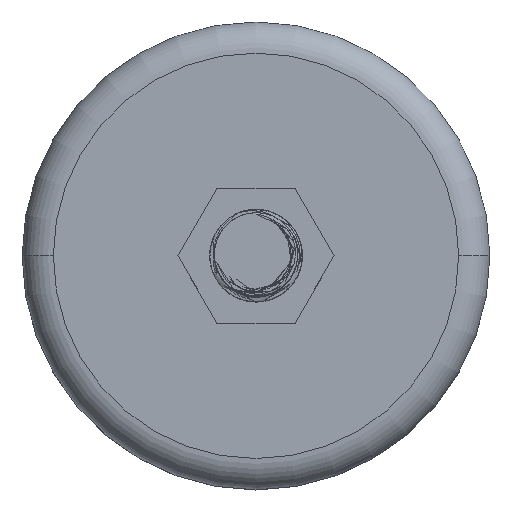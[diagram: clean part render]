
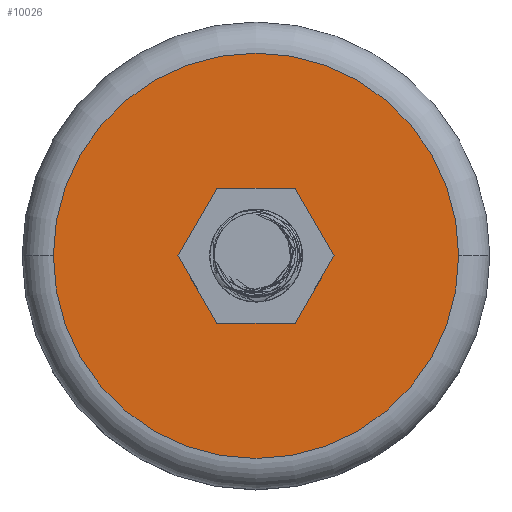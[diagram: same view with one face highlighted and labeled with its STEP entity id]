
A CAD part, top view. The second image highlights one B-rep face of the part: STEP entity #10026.
In plain terms, the highlighted planar face has unit normal (0, 0, 1).
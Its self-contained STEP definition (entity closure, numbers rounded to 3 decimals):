
#137 = VERTEX_POINT ( 'NONE', #2942 ) ;
#291 = ORIENTED_EDGE ( 'NONE', *, *, #7947, .F. ) ;
#548 = LINE ( 'NONE', #12035, #7671 ) ;
#697 = DIRECTION ( 'NONE',  ( -0.5, 0.866, 0. ) ) ;
#761 = VERTEX_POINT ( 'NONE', #1630 ) ;
#1560 = DIRECTION ( 'NONE',  ( 1., 0., 0. ) ) ;
#1630 = CARTESIAN_POINT ( 'NONE',  ( -7.506, 0., 17. ) ) ;
#2006 = CARTESIAN_POINT ( 'NONE',  ( 7.506, 0., 17. ) ) ;
#2283 = VERTEX_POINT ( 'NONE', #6211 ) ;
#2542 = ORIENTED_EDGE ( 'NONE', *, *, #7326, .T. ) ;
#2573 = DIRECTION ( 'NONE',  ( 1., 0., 0. ) ) ;
#2601 = VECTOR ( 'NONE', #8489, 1000. ) ;
#2711 = EDGE_CURVE ( 'NONE', #6851, #137, #12301, .T. ) ;
#2809 = ORIENTED_EDGE ( 'NONE', *, *, #4797, .F. ) ;
#2863 = DIRECTION ( 'NONE',  ( 0., 0., 1. ) ) ;
#2942 = CARTESIAN_POINT ( 'NONE',  ( 3.753, -6.5, 17. ) ) ;
#2945 = CARTESIAN_POINT ( 'NONE',  ( -19.5, 0., 17. ) ) ;
#3129 = VECTOR ( 'NONE', #8316, 1000. ) ;
#3314 = LINE ( 'NONE', #2006, #11793 ) ;
#3545 = EDGE_CURVE ( 'NONE', #9160, #10623, #10645, .T. ) ;
#3712 = VERTEX_POINT ( 'NONE', #8887 ) ;
#3868 = DIRECTION ( 'NONE',  ( 0., 0., 1. ) ) ;
#4170 = CARTESIAN_POINT ( 'NONE',  ( 0., 0., 17. ) ) ;
#4417 = AXIS2_PLACEMENT_3D ( 'NONE', #4170, #2863, #1560 ) ;
#4751 = AXIS2_PLACEMENT_3D ( 'NONE', #10444, #3868, #2573 ) ;
#4797 = EDGE_CURVE ( 'NONE', #9161, #2283, #3314, .T. ) ;
#5295 = ORIENTED_EDGE ( 'NONE', *, *, #3545, .T. ) ;
#5670 = VECTOR ( 'NONE', #7331, 1000. ) ;
#6094 = ORIENTED_EDGE ( 'NONE', *, *, #2711, .F. ) ;
#6211 = CARTESIAN_POINT ( 'NONE',  ( 3.753, 6.5, 17. ) ) ;
#6332 = FACE_BOUND ( 'NONE', #9631, .T. ) ;
#6851 = VERTEX_POINT ( 'NONE', #10747 ) ;
#7269 = CARTESIAN_POINT ( 'NONE',  ( 7.506, 0., 17. ) ) ;
#7326 = EDGE_CURVE ( 'NONE', #10623, #9160, #10989, .T. ) ;
#7331 = DIRECTION ( 'NONE',  ( 0.5, -0.866, 0. ) ) ;
#7671 = VECTOR ( 'NONE', #10727, 1000. ) ;
#7713 = DIRECTION ( 'NONE',  ( 1., 0., 0. ) ) ;
#7947 = EDGE_CURVE ( 'NONE', #3712, #761, #11109, .T. ) ;
#8026 = ORIENTED_EDGE ( 'NONE', *, *, #9858, .F. ) ;
#8316 = DIRECTION ( 'NONE',  ( -1., 0., 0. ) ) ;
#8489 = DIRECTION ( 'NONE',  ( -0.5, -0.866, 0. ) ) ;
#8584 = CARTESIAN_POINT ( 'NONE',  ( 19.5, 0., 17. ) ) ;
#8620 = EDGE_LOOP ( 'NONE', ( #5295, #2542 ) ) ;
#8643 = CARTESIAN_POINT ( 'NONE',  ( -7.506, 0., 17. ) ) ;
#8887 = CARTESIAN_POINT ( 'NONE',  ( -3.753, 6.5, 17. ) ) ;
#8971 = FACE_OUTER_BOUND ( 'NONE', #8620, .T. ) ;
#9026 = DIRECTION ( 'NONE',  ( 0., 0., 1. ) ) ;
#9160 = VERTEX_POINT ( 'NONE', #8584 ) ;
#9161 = VERTEX_POINT ( 'NONE', #7269 ) ;
#9315 = AXIS2_PLACEMENT_3D ( 'NONE', #10347, #9026, #7713 ) ;
#9344 = PLANE ( 'NONE',  #9315 ) ;
#9631 = EDGE_LOOP ( 'NONE', ( #8026, #291, #12498, #2809, #11642, #6094 ) ) ;
#9637 = CARTESIAN_POINT ( 'NONE',  ( 3.753, 6.5, 17. ) ) ;
#9673 = DIRECTION ( 'NONE',  ( 1., 0., 0. ) ) ;
#9803 = CARTESIAN_POINT ( 'NONE',  ( -3.753, 6.5, 17. ) ) ;
#9858 = EDGE_CURVE ( 'NONE', #761, #6851, #9950, .T. ) ;
#9950 = LINE ( 'NONE', #8643, #5670 ) ;
#10026 = ADVANCED_FACE ( 'NONE', ( #8971, #6332 ), #9344, .T. ) ;
#10347 = CARTESIAN_POINT ( 'NONE',  ( 0., 0., 17. ) ) ;
#10444 = CARTESIAN_POINT ( 'NONE',  ( 0., 0., 17. ) ) ;
#10623 = VERTEX_POINT ( 'NONE', #2945 ) ;
#10624 = VECTOR ( 'NONE', #9673, 1000. ) ;
#10645 = CIRCLE ( 'NONE', #4751, 19.5 ) ;
#10727 = DIRECTION ( 'NONE',  ( 0.5, 0.866, 0. ) ) ;
#10747 = CARTESIAN_POINT ( 'NONE',  ( -3.753, -6.5, 17. ) ) ;
#10939 = LINE ( 'NONE', #9637, #3129 ) ;
#10974 = CARTESIAN_POINT ( 'NONE',  ( -3.753, -6.5, 17. ) ) ;
#10989 = CIRCLE ( 'NONE', #4417, 19.5 ) ;
#11109 = LINE ( 'NONE', #9803, #2601 ) ;
#11642 = ORIENTED_EDGE ( 'NONE', *, *, #11744, .F. ) ;
#11744 = EDGE_CURVE ( 'NONE', #137, #9161, #548, .T. ) ;
#11793 = VECTOR ( 'NONE', #697, 1000. ) ;
#12035 = CARTESIAN_POINT ( 'NONE',  ( 3.753, -6.5, 17. ) ) ;
#12179 = EDGE_CURVE ( 'NONE', #2283, #3712, #10939, .T. ) ;
#12301 = LINE ( 'NONE', #10974, #10624 ) ;
#12498 = ORIENTED_EDGE ( 'NONE', *, *, #12179, .F. ) ;
